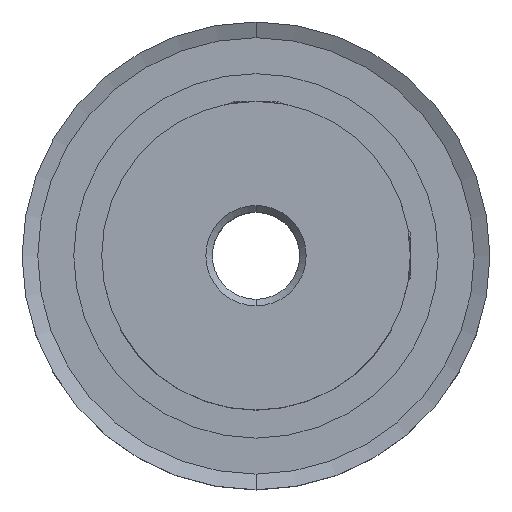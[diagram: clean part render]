
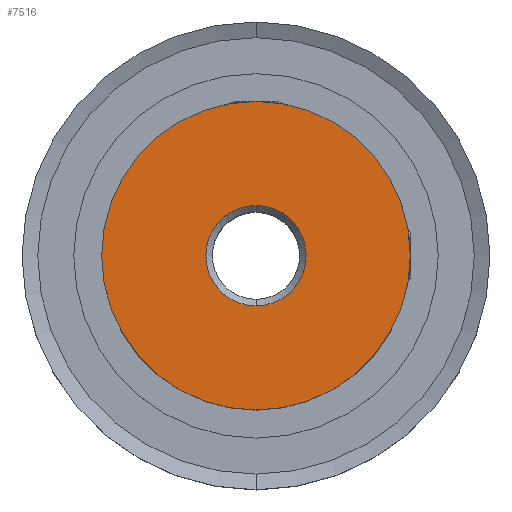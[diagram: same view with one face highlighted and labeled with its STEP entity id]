
A CAD part, top view. The second image highlights one B-rep face of the part: STEP entity #7516.
In plain terms, the highlighted planar face has unit normal (0, 0, 1).
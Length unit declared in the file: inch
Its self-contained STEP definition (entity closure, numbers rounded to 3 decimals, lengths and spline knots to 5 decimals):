
#1=CARTESIAN_POINT('',(0.,0.,0.32813));
#2=DIRECTION('',(0.,0.,1.));
#3=DIRECTION('',(0.,1.,0.));
#4=AXIS2_PLACEMENT_3D('',#1,#2,#3);
#6=CARTESIAN_POINT('',(0.,0.,0.32813));
#7=DIRECTION('',(0.,0.,-1.));
#8=DIRECTION('',(0.,1.,0.));
#9=AXIS2_PLACEMENT_3D('',#6,#7,#8);
#16=CARTESIAN_POINT('',(0.,0.,0.32813));
#17=DIRECTION('',(0.,0.,-1.));
#18=DIRECTION('',(0.,1.,0.));
#19=AXIS2_PLACEMENT_3D('',#16,#17,#18);
#5552=CARTESIAN_POINT('',(0.,0.,0.32813));
#5553=DIRECTION('',(0.,0.,1.));
#5554=DIRECTION('',(0.,1.,0.));
#5555=AXIS2_PLACEMENT_3D('',#5552,#5553,#5554);
#5867=CARTESIAN_POINT('',(0.,0.442,0.32813));
#5868=CARTESIAN_POINT('',(0.,-0.442,0.32813));
#5869=VERTEX_POINT('',#5867);
#5870=VERTEX_POINT('',#5868);
#7099=CARTESIAN_POINT('',(0.,0.14375,0.32813));
#7100=CARTESIAN_POINT('',(0.,-0.14375,0.32813));
#7101=VERTEX_POINT('',#7099);
#7102=VERTEX_POINT('',#7100);
#7499=CARTESIAN_POINT('',(0.,0.,0.32813));
#7500=DIRECTION('',(0.,0.,-1.));
#7501=DIRECTION('',(0.,-1.,0.));
#7502=AXIS2_PLACEMENT_3D('',#7499,#7500,#7501);
#7503=PLANE('',#7502);
#7505=ORIENTED_EDGE('',*,*,#7504,.F.);
#7507=ORIENTED_EDGE('',*,*,#7506,.T.);
#7508=EDGE_LOOP('',(#7505,#7507));
#7509=FACE_OUTER_BOUND('',#7508,.F.);
#7511=ORIENTED_EDGE('',*,*,#7510,.F.);
#7513=ORIENTED_EDGE('',*,*,#7512,.T.);
#7514=EDGE_LOOP('',(#7511,#7513));
#7515=FACE_BOUND('',#7514,.F.);
#7516=ADVANCED_FACE('',(#7509,#7515),#7503,.F.);
#5=CIRCLE('',#4,0.442);
#10=CIRCLE('',#9,0.442);
#20=CIRCLE('',#19,0.14375);
#5556=CIRCLE('',#5555,0.14375);
#7504=EDGE_CURVE('',#5869,#5870,#5,.T.);
#7506=EDGE_CURVE('',#5869,#5870,#10,.T.);
#7510=EDGE_CURVE('',#7101,#7102,#20,.T.);
#7512=EDGE_CURVE('',#7101,#7102,#5556,.T.);
